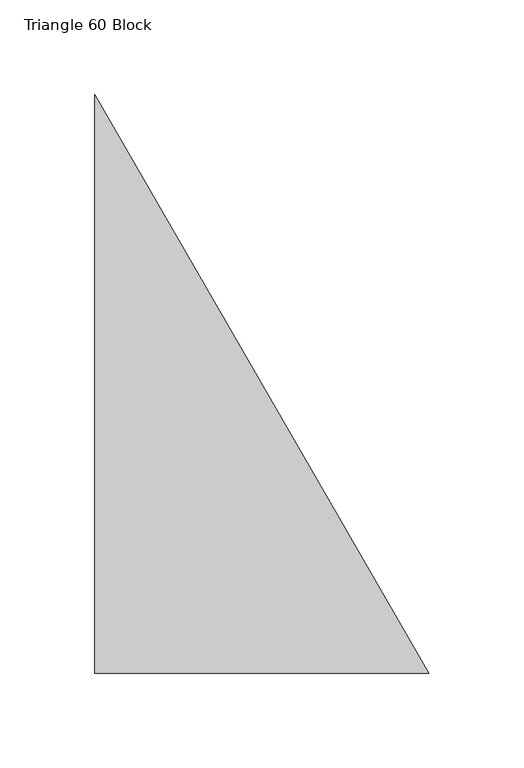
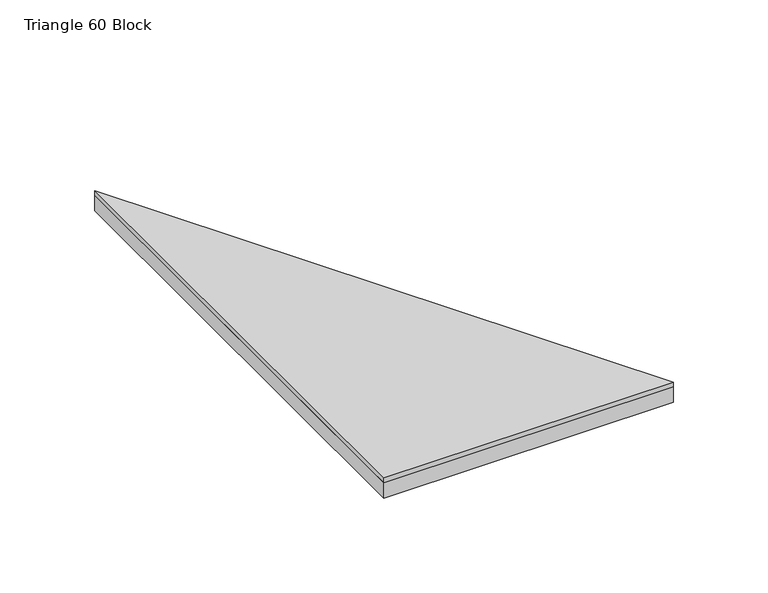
"""IFC4 building model written with IfcOpenShell, lengths in millimetres: proxy geometry, FilzFelt_Triangle_60_Block : Triangle 60 Block."""

from ifc_helpers import new_model, si_unit, frame, origin, origin_with_axes, place, context, project, spatial, polyline, outline, extrude, source, transform, mapped, element, save


def triangle_60_block_31d98bf3(model_context):
    return source(origin(), model_context, "Body", "SweptSolid", [
        extrude(outline(polyline([(0.0, 152.7090029), (176.2125, -152.5), (0.0, -152.5), (0.0, 152.7090029)])), frame((0.0, 0.0, 10.0210937), z_axis=(0.0, 0.0, 1.0), x_axis=(1.0, 0.0, 0.0)), (0.0, 0.0, 1.0), 2.9765625),
        extrude(outline(polyline([(0.0, 152.7090029), (176.2125, -152.5), (0.0, -152.5), (0.0, 152.7090029)])), origin_with_axes(), (0.0, 0.0, 1.0), 10.0210938),
    ])


if __name__ == "__main__":
    model = new_model("IFC4")
    model_context = context("Model", 3, world=origin())
    ifc_project = project(units=[si_unit("LENGTHUNIT", "METRE", prefix="MILLI")], contexts=[model_context])
    site = spatial("IfcSite", under=ifc_project)
    building = spatial("IfcBuilding", under=site)
    placement = place(None, origin())
    triangle_60_block_shape = triangle_60_block_31d98bf3(model_context)
    element("IfcBuildingElementProxy", 1, Name="FilzFelt_Triangle_60_Block : Triangle 60 Block", ObjectType="FilzFelt_Triangle_60_Block : Triangle 60 Block", at=placement, inside=building, context=model_context, shape_type="MappedRepresentation", body=[
        mapped(triangle_60_block_shape, transform((0.0, 0.0, 0.0), x_axis=(1.0, 0.0, 0.0), y_axis=(0.0, 1.0, 0.0), z_axis=(0.0, 0.0, 1.0))),
    ])
    save(model, "model.ifc")
